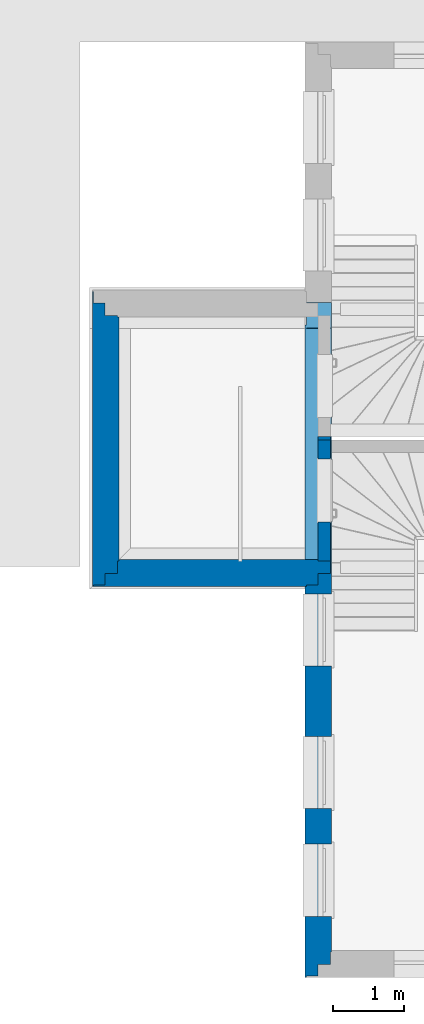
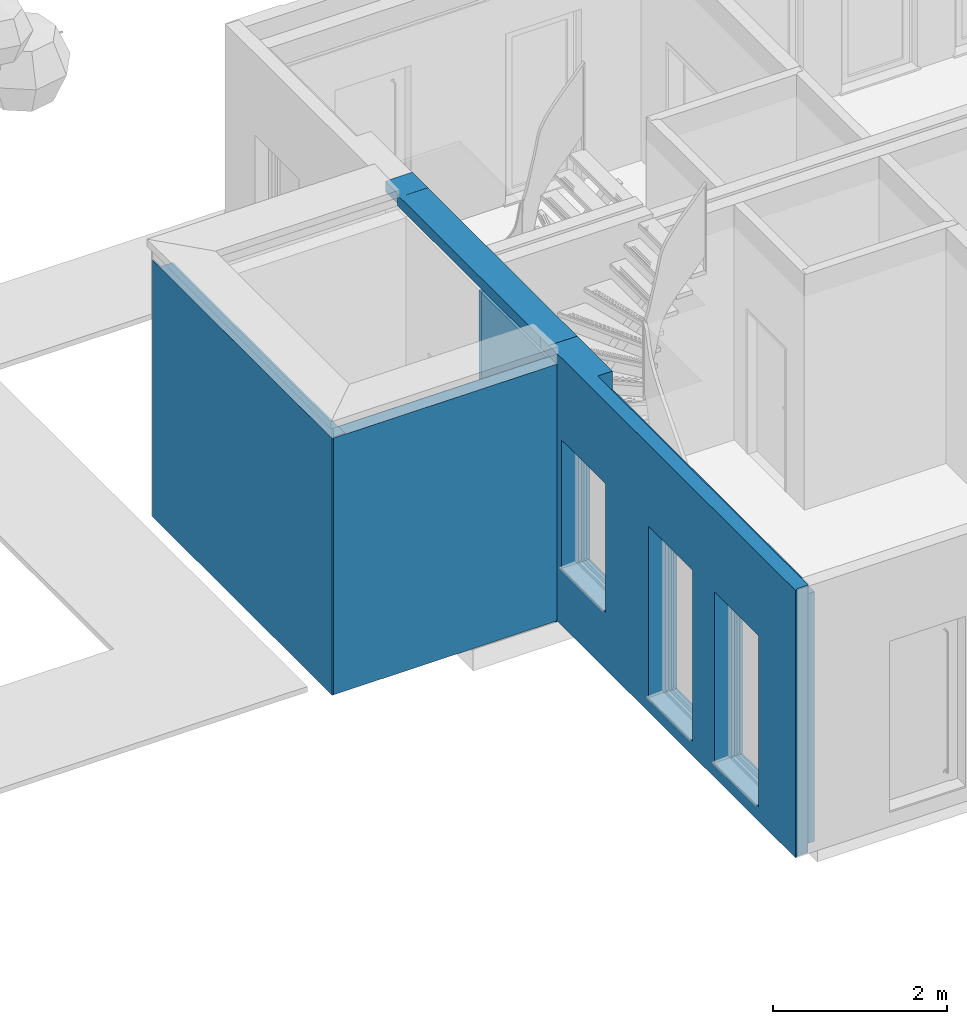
# One storey, part 6 of 28: 6 walls.
"""IFC4 building model written with IfcOpenShell, lengths in metres."""

from ifc_helpers import new_model, entity, si_unit, converted_unit, derived_unit, direction, frame, origin_with_axes, place, context, subcontext, project, spatial, triangles, material, constituent, constituent_set, type_object, element, save


model = new_model("IFC4")

# Units and contexts
model_context = context("Model", 3, precision=1e-05, world=origin_with_axes(), true_north=direction((-0.526213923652, 0.850352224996)))
body_context = subcontext(model_context, "Body", "Model", "MODEL_VIEW")
ifc_project = project(units=[si_unit("LENGTHUNIT", "METRE"), si_unit("AREAUNIT", "SQUARE_METRE"), si_unit("VOLUMEUNIT", "CUBIC_METRE"), converted_unit("PLANEANGLEUNIT", "DEGREE", entity("IfcPlaneAngleMeasure", 0.0174532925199), si_unit("PLANEANGLEUNIT", "RADIAN"), dimensions=[0, 0, 0, 0, 0, 0, 0]), si_unit("SOLIDANGLEUNIT", "STERADIAN"), converted_unit("TIMEUNIT", "Year", entity("IfcTimeMeasure", 31556926.0), si_unit("TIMEUNIT", "SECOND"), dimensions=[0, 0, 1, 0, 0, 0, 0]), si_unit("MASSUNIT", "GRAM", prefix="KILO"), si_unit("THERMODYNAMICTEMPERATUREUNIT", "DEGREE_CELSIUS"), si_unit("LUMINOUSINTENSITYUNIT", "LUMEN"), si_unit("ENERGYUNIT", "JOULE", prefix="MEGA"), derived_unit("THERMALCONDUCTANCEUNIT", [(si_unit("POWERUNIT", "WATT"), 1), (si_unit("LENGTHUNIT", "METRE"), -1), (si_unit("THERMODYNAMICTEMPERATUREUNIT", "KELVIN"), -1)]), derived_unit("SPECIFICHEATCAPACITYUNIT", [(si_unit("ENERGYUNIT", "JOULE"), 1), (si_unit("MASSUNIT", "GRAM", prefix="KILO"), -1), (si_unit("THERMODYNAMICTEMPERATUREUNIT", "KELVIN"), -1)]), derived_unit("MASSDENSITYUNIT", [(si_unit("MASSUNIT", "GRAM", prefix="KILO"), 1), (si_unit("VOLUMEUNIT", "CUBIC_METRE"), -1)])], contexts=[model_context])

# Site, building, storey, space
site_placement = place(None, origin_with_axes())
site = spatial("IfcSite", under=ifc_project, at=site_placement, Name="Gelände", CompositionType="ELEMENT")
building_placement = place(site_placement, origin_with_axes())
building = spatial("IfcBuilding", under=site, at=building_placement, Name="Haus vom Nikolaus", CompositionType="ELEMENT")
storey_placement = place(building_placement, origin_with_axes())
storey = spatial("IfcBuildingStorey", under=building, at=storey_placement, Name="EG", CompositionType="ELEMENT", Elevation=0.0)
space_placement = place(storey_placement, frame((-3.09538684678, 5.36483190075, 0.0), z_axis=(0.0, 0.0, 1.0), x_axis=(1.0, 0.0, 0.0)))
space = spatial("IfcSpace", under=storey, at=space_placement, Name="EG", CompositionType="ELEMENT")

# Walls
ifc_material_1 = material(Name="Verputz, Zement")
ifc_constituent_1 = constituent(ifc_material_1, Name="Component 1")
ifc_material_2 = material(Name="MW Kalksandstein")
ifc_constituent_2 = constituent(ifc_material_2, Name="Component 2")
ifc_material_3 = material(Name="Dämmung, weich Mineralwolle 2")
ifc_constituent_3 = constituent(ifc_material_3, Name="Component 3")
ifc_constituent_4 = constituent(ifc_material_1, Name="Component 4")
ifc_constituent_set_1 = constituent_set(constituents=[ifc_constituent_1, ifc_constituent_2, ifc_constituent_3, ifc_constituent_4], Name="WA | 2 Schichtig KS")
wall_type_1 = type_object("IfcWallType", Name="WA | 2 Schichtig KS 375", PredefinedType="NOTDEFINED")
wall_1_placement = place(space_placement, frame((0.375, 0.375000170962, 0.0), z_axis=(0.0, 0.0, 1.0), x_axis=(1.0, 0.0, 0.0)))
element("IfcWall", 1, at=wall_1_placement, inside=space, type_object=wall_type_1, material=ifc_constituent_set_1, Name="Wand-001", context=body_context, shape_type="Tessellation", body=[
    triangles([(2.78510521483, 0.0, 0.0), (0.0, 0.0, 3.3), (2.78510521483, 0.0, 3.3), (0.0, 0.0, 0.0), (2.78510188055, -0.02, 3.3), (0.0, -0.02, 3.3), (2.78510188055, -0.02, 0.0), (0.0, -0.02, 0.0)], [[1, 2, 3], [1, 4, 2], [2, 5, 3], [2, 6, 5], [7, 3, 5], [7, 1, 3], [7, 4, 1], [7, 8, 4], [4, 6, 2], [4, 8, 6], [8, 5, 6], [8, 7, 5]], closed=True),
    triangles([(2.96038446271, 0.0, 3.6), (2.98010084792, 0.0, 3.6), (2.96038446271, 0.0, 3.3), (2.96010521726, 0.0, 0.0), (2.98010084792, 0.0, 0.0), (2.96010521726, 0.0, 3.3), (2.96038446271, -0.02, 3.3), (2.96010188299, -0.02, 3.3), (2.96038446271, -0.02, 3.6), (2.98010188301, -0.02, 3.6), (2.98010188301, -0.02, 0.0), (2.96010188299, -0.02, 0.0)], [[1, 2, 3], [4, 3, 5], [5, 3, 2], [3, 4, 6], [7, 6, 8], [6, 7, 3], [3, 9, 1], [3, 7, 9], [2, 9, 10], [9, 2, 1], [5, 10, 11], [5, 2, 10], [4, 11, 12], [4, 5, 11], [4, 8, 6], [4, 12, 8], [9, 7, 10], [11, 7, 12], [12, 7, 8], [10, 7, 11]], closed=True),
    triangles([(2.96010186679, -0.0200971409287, 0.0), (2.78510186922, -0.0200679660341, 3.3), (2.96010186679, -0.0200971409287, 3.3), (2.78510186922, -0.0200679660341, 0.0), (-0.02, -0.195, 3.3), (-0.02, -0.02, 3.3), (2.96011094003, -0.195, 3.3), (2.78510188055, -0.02, 3.3), (2.96011094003, -0.195, 0.0), (-0.02, -0.02, 0.0), (2.78510188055, -0.02, 0.0), (-0.02, -0.195, 0.0)], [[1, 2, 3], [1, 4, 2], [5, 2, 6], [2, 7, 3], [6, 2, 8], [2, 5, 7], [9, 3, 7], [9, 1, 3], [4, 10, 11], [4, 1, 9], [10, 4, 12], [12, 4, 9], [4, 8, 2], [4, 11, 8], [11, 6, 8], [11, 10, 6], [10, 5, 6], [10, 12, 5], [12, 7, 5], [12, 9, 7]], closed=True),
    triangles([(2.78511093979, -0.195, 0.0), (-0.195, -0.355, 0.0), (-0.195, -0.195, 0.0), (2.78511922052, -0.355, 0.0), (2.78511922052, -0.355, 3.6), (-0.195, -0.355, 3.6), (-0.195, -0.195, 3.6), (2.78511093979, -0.195, 3.6)], [[1, 2, 3], [2, 1, 4], [2, 5, 6], [2, 4, 5], [6, 3, 2], [6, 7, 3], [7, 1, 3], [7, 8, 1], [5, 1, 8], [5, 4, 1], [6, 8, 7], [6, 5, 8]], closed=True),
    triangles([(2.6251192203, -0.355, 0.0), (-0.355, -0.375, 0.0), (-0.355, -0.355, 0.0), (2.62512025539, -0.375, 0.0), (2.62512025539, -0.375, 3.6), (-0.355, -0.375, 3.6), (-0.355, -0.355, 3.6), (2.6251192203, -0.355, 3.6)], [[1, 2, 3], [2, 1, 4], [2, 5, 6], [2, 4, 5], [6, 3, 2], [6, 7, 3], [7, 1, 3], [7, 8, 1], [5, 1, 8], [5, 4, 1], [6, 8, 7], [6, 5, 8]], closed=True),
])
ifc_constituent_5 = constituent(ifc_material_1, Name="Component 1")
ifc_constituent_6 = constituent(ifc_material_3, Name="Component 2")
ifc_constituent_7 = constituent(ifc_material_2, Name="Component 3")
ifc_constituent_8 = constituent(ifc_material_1, Name="Component 4")
ifc_constituent_set_2 = constituent_set(constituents=[ifc_constituent_5, ifc_constituent_6, ifc_constituent_7, ifc_constituent_8], Name="WA | 2 Schichtig KS")
wall_2_placement = place(space_placement, frame((0.375, 0.375000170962, 0.0), z_axis=(0.0, 0.0, 1.0), x_axis=(0.0, 1.0, 0.0)))
element("IfcWall", 2, at=wall_2_placement, inside=space, type_object=wall_type_1, material=ifc_constituent_set_2, Name="Wand-002", context=body_context, shape_type="Tessellation", body=[
    triangles([(-0.375, 0.355, 3.6), (3.755, 0.375, 3.6), (-0.375, 0.375, 3.6), (3.755, 0.355, 3.6), (3.755, 0.375, 0.0), (-0.375, 0.375, 0.0), (-0.375, 0.355, 0.0), (3.755, 0.355, 0.0)], [[1, 2, 3], [1, 4, 2], [3, 5, 6], [3, 2, 5], [6, 1, 3], [6, 7, 1], [7, 4, 1], [7, 8, 4], [5, 4, 8], [5, 2, 4], [6, 8, 7], [6, 5, 8]], closed=True),
    triangles([(-0.355, 0.195, 3.6), (3.595, 0.355, 3.6), (-0.355, 0.355, 3.6), (3.595, 0.195, 3.6), (3.595, 0.355, 0.0), (-0.355, 0.355, 0.0), (-0.355, 0.195, 0.0), (3.595, 0.195, 0.0)], [[1, 2, 3], [1, 4, 2], [3, 5, 6], [3, 2, 5], [6, 1, 3], [6, 7, 1], [7, 4, 1], [7, 8, 4], [5, 4, 8], [5, 2, 4], [6, 8, 7], [6, 5, 8]], closed=True),
    triangles([(3.42, 0.02, 0.0), (3.42, 0.195, 3.3), (3.42, 0.02, 3.3), (3.42, 0.195, 0.0), (-0.195, 0.02, 3.3), (-0.195, 0.195, 3.3), (-0.195, 0.02, 0.0), (-0.195, 0.195, 0.0)], [[1, 2, 3], [1, 4, 2], [2, 5, 3], [2, 6, 5], [7, 3, 5], [7, 1, 3], [8, 1, 7], [1, 8, 4], [4, 6, 2], [4, 8, 6], [8, 5, 6], [8, 7, 5]], closed=True),
    triangles([(3.4, 0.0, 0.0), (3.4, 0.02, 3.3), (3.4, 0.0, 3.3), (3.4, 0.02, 0.0), (-0.02, 0.0, 3.3), (-0.02, 0.02, 3.3), (-0.02, 0.0, 0.0), (-0.02, 0.02, 0.0)], [[1, 2, 3], [1, 4, 2], [2, 5, 3], [2, 6, 5], [7, 3, 5], [7, 1, 3], [8, 1, 7], [1, 8, 4], [4, 6, 2], [4, 8, 6], [8, 5, 6], [8, 7, 5]], closed=True),
])
ifc_constituent_9 = constituent(ifc_material_1, Name="Component 1")
ifc_constituent_10 = constituent(ifc_material_2, Name="Component 2")
ifc_constituent_11 = constituent(ifc_material_3, Name="Component 3")
ifc_constituent_12 = constituent(ifc_material_1, Name="Component 4")
ifc_constituent_set_3 = constituent_set(constituents=[ifc_constituent_9, ifc_constituent_10, ifc_constituent_11, ifc_constituent_12], Name="WA | 2 Schichtig KS")
wall_3_placement = place(space_placement, frame((3.35510084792, 0.375000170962, 0.0), z_axis=(0.0, 0.0, 1.0), x_axis=(5.17545230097e-05, -0.999999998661, 0.0)))
element("IfcWall", 3, at=wall_3_placement, inside=space, type_object=wall_type_1, material=ifc_constituent_set_3, Name="Wand-004", context=body_context, shape_type="Tessellation", body=[
    triangles([(0.0199989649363, -0.02, 0.0), (5.49999892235, -0.02, 0.0), (3.4899999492, -0.02, 0.2), (0.0, -0.02, 3.74992860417), (0.194998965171, -0.02, 3.6), (0.999998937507, -0.02, 3.74992860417), (3.4899999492, -0.02, 2.6), (0.999998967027, -0.02, 3.15), (2.4799999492, -0.02, 2.6), (1.4899999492, -0.02, 2.6), (5.49999892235, -0.02, 3.5), (5.49887787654, -0.02, 3.2), (-1.03509046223e-06, -0.02, 3.6), (0.194998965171, -0.02, 3.3), (0.999998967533, -0.02, 3.5), (0.4799999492, -0.02, 2.6), (0.0199989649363, -0.02, 3.3), (0.4799999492, -0.02, 0.8), (1.4899999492, -0.02, 0.8), (3.9899999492, -0.02, 2.6), (4.9999999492, -0.02, 2.6), (0.999998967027, -0.02, 3.2), (5.49887787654, -0.02, 3.15), (3.9899999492, -0.02, 0.2), (2.4799999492, -0.02, 0.2), (4.9999999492, -0.02, 0.2), (0.0200000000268, 0.0, 0.0), (5.49999995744, 0.0, 0.0), (5.49999995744, 0.0, 3.5), (1.00000000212, 0.0, 3.5), (0.999999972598, 0.0, 3.74992860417), (0.0, 0.0, 3.74992860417), (0.0, 0.0, 3.6), (0.0199989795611, -0.0197174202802, 3.6), (0.0200000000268, 0.0, 3.6), (0.194998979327, -0.0197264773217, 3.6), (0.194998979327, -0.0197264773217, 3.3), (0.0199989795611, -0.0197174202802, 3.3), (1.00000000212, 0.0, 3.15), (5.49887891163, 0.0, 3.15), (1.00000000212, 0.0, 3.2), (5.49887891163, 0.0, 3.2), (1.4899999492, 0.0, 2.6), (1.4899999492, 0.0, 0.8), (0.4799999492, 0.0, 0.8), (0.4799999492, 0.0, 2.6), (3.4899999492, 0.0, 2.6), (2.4799999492, 0.0, 2.6), (3.4899999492, 0.0, 0.2), (2.4799999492, 0.0, 0.2), (3.9899999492, 0.0, 0.2), (3.9899999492, 0.0, 2.6), (4.9999999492, 0.0, 2.6), (4.9999999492, 0.0, 0.2)], [[1, 2, 3], [4, 5, 6], [7, 8, 9], [9, 8, 10], [2, 11, 12], [5, 4, 13], [14, 15, 5], [6, 5, 15], [16, 17, 18], [18, 1, 19], [20, 8, 7], [21, 8, 20], [22, 15, 14], [8, 22, 14], [2, 12, 23], [22, 11, 15], [16, 8, 14], [23, 8, 21], [17, 16, 14], [20, 3, 24], [1, 18, 17], [8, 16, 10], [9, 10, 19], [25, 9, 19], [3, 20, 7], [1, 3, 25], [1, 25, 19], [24, 3, 2], [26, 2, 21], [22, 12, 11], [23, 21, 2], [2, 26, 24], [2, 27, 28], [27, 2, 1], [11, 28, 29], [11, 2, 28], [30, 11, 29], [11, 30, 15], [31, 15, 30], [31, 6, 15], [32, 6, 31], [6, 32, 4], [4, 33, 13], [4, 32, 33], [5, 13, 34], [34, 33, 35], [5, 34, 36], [33, 34, 13], [5, 37, 14], [5, 36, 37], [14, 38, 17], [38, 14, 37], [38, 1, 17], [38, 34, 35], [1, 38, 27], [27, 38, 35], [39, 23, 40], [39, 8, 23], [41, 8, 39], [41, 22, 8], [12, 41, 42], [41, 12, 22], [40, 12, 42], [40, 23, 12], [43, 19, 10], [43, 44, 19], [44, 18, 19], [44, 45, 18], [45, 16, 18], [45, 46, 16], [43, 16, 46], [16, 43, 10], [9, 47, 7], [9, 48, 47], [7, 49, 3], [7, 47, 49], [3, 50, 25], [3, 49, 50], [25, 48, 9], [25, 50, 48], [20, 51, 52], [20, 24, 51], [21, 52, 53], [21, 20, 52], [26, 53, 54], [26, 21, 53], [26, 51, 24], [51, 26, 54], [33, 32, 35], [41, 35, 30], [35, 31, 30], [28, 27, 50], [29, 28, 40], [41, 46, 35], [46, 41, 39], [31, 35, 32], [43, 46, 39], [42, 41, 30], [42, 30, 29], [29, 40, 42], [39, 40, 53], [46, 45, 27], [27, 35, 46], [44, 27, 45], [28, 49, 51], [48, 50, 44], [48, 44, 43], [54, 28, 51], [39, 48, 43], [39, 47, 48], [28, 50, 49], [44, 50, 27], [52, 49, 47], [28, 53, 40], [39, 52, 47], [53, 28, 54], [39, 53, 52], [49, 52, 51], [38, 36, 34], [38, 37, 36]], closed=True),
    triangles([(1.4899999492, -0.195, 0.8), (0.4799999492, -0.195, 0.8), (0.194989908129, -0.195, 0.0), (0.194989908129, -0.195, 3.6), (2.4799999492, -0.195, 2.6), (1.4899999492, -0.195, 2.6), (5.67498986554, -0.195, 3.74992860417), (0.0, -0.195, 3.74992860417), (0.4799999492, -0.195, 2.6), (5.67498986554, -0.195, 0.0), (3.4899999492, -0.195, 0.2), (0.0, -0.195, 3.6), (3.9899999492, -0.195, 0.2), (3.4899999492, -0.195, 2.6), (2.4799999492, -0.195, 0.2), (3.9899999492, -0.195, 2.6), (4.9999999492, -0.195, 0.2), (4.9999999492, -0.195, 2.6), (-1.03509045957e-06, -0.0199999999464, 3.6), (0.194998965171, -0.02, 3.6), (0.194998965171, -0.02, 0.0), (5.67499892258, -0.02, 0.0), (5.67498987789, -0.194625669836, 3.5), (5.67499891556, -0.0199999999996, 3.5), (5.67498987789, -0.194625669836, 3.74992860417), (0.99998994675, -0.194383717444, 3.74992860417), (0.0, -0.02, 3.74992860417), (0.999998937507, -0.02, 3.74992860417), (1.4899999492, -0.02, 2.6), (1.4899999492, -0.02, 0.8), (0.4799999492, -0.02, 0.8), (0.4799999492, -0.02, 2.6), (3.4899999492, -0.02, 2.6), (2.4799999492, -0.02, 2.6), (3.4899999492, -0.02, 0.2), (2.4799999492, -0.02, 0.2), (3.9899999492, -0.0199999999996, 0.2), (3.9899999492, -0.0199999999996, 2.6), (4.9999999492, -0.0199999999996, 2.6), (4.9999999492, -0.0199999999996, 0.2), (0.999998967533, -0.02, 3.5), (0.99998994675, -0.194383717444, 3.5)], [[1, 2, 3], [4, 3, 2], [5, 4, 6], [7, 8, 4], [4, 2, 9], [3, 10, 11], [4, 8, 12], [4, 5, 7], [13, 14, 11], [4, 9, 6], [1, 5, 6], [14, 7, 5], [15, 5, 1], [13, 16, 14], [3, 11, 15], [3, 15, 1], [13, 11, 10], [17, 10, 18], [18, 7, 16], [14, 16, 7], [7, 18, 10], [10, 17, 13], [4, 19, 20], [19, 4, 12], [20, 3, 4], [20, 21, 3], [10, 21, 22], [21, 10, 3], [7, 10, 23], [23, 22, 24], [7, 23, 25], [22, 23, 10], [8, 7, 26], [26, 7, 25], [27, 26, 28], [26, 27, 8], [27, 12, 8], [12, 27, 19], [29, 1, 6], [29, 30, 1], [31, 1, 30], [1, 31, 2], [31, 9, 2], [31, 32, 9], [32, 6, 9], [32, 29, 6], [5, 33, 14], [5, 34, 33], [14, 35, 11], [14, 33, 35], [35, 15, 11], [15, 35, 36], [15, 34, 5], [15, 36, 34], [16, 37, 38], [16, 13, 37], [16, 39, 18], [39, 16, 38], [17, 39, 40], [17, 18, 39], [13, 40, 37], [13, 17, 40], [20, 19, 27], [32, 41, 29], [20, 28, 41], [41, 24, 33], [22, 21, 36], [41, 32, 20], [28, 20, 27], [30, 21, 31], [21, 32, 31], [21, 20, 32], [34, 36, 30], [22, 35, 37], [34, 30, 29], [39, 22, 40], [41, 34, 29], [41, 33, 34], [22, 36, 35], [30, 36, 21], [38, 35, 33], [40, 22, 37], [38, 33, 24], [22, 39, 24], [38, 24, 39], [35, 38, 37], [41, 23, 24], [23, 41, 42], [25, 42, 26], [25, 23, 42], [28, 42, 41], [28, 26, 42]], closed=True),
    triangles([(0.0, -0.355, 3.6), (0.35498162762, -0.355, 3.6), (0.0, -0.355, 3.74992860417), (0.35498162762, -0.355, 0.0), (5.83498158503, -0.355, 0.0), (3.9899999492, -0.355, 0.2), (2.4799999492, -0.355, 2.6), (1.4899999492, -0.355, 2.6), (5.83498158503, -0.355, 3.74992860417), (1.4899999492, -0.355, 0.8), (0.4799999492, -0.355, 0.8), (3.4899999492, -0.355, 2.6), (3.9899999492, -0.355, 2.6), (3.4899999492, -0.355, 0.2), (0.4799999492, -0.355, 2.6), (2.4799999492, -0.355, 0.2), (4.9999999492, -0.355, 0.2), (4.9999999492, -0.355, 2.6), (0.354989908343, -0.195, 3.6), (0.354989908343, -0.195, 0.0), (5.83498986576, -0.195, 0.0), (5.83498986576, -0.195, 3.74992860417), (0.0, -0.195, 3.74992860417), (0.0, -0.195, 3.6), (1.4899999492, -0.195, 2.6), (1.4899999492, -0.195, 0.8), (0.4799999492, -0.195, 0.8), (0.4799999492, -0.195, 2.6), (3.4899999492, -0.195, 2.6), (2.4799999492, -0.195, 2.6), (3.4899999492, -0.195, 0.2), (2.4799999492, -0.195, 0.2), (3.9899999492, -0.195, 0.2), (3.9899999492, -0.195, 2.6), (4.9999999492, -0.195, 2.6), (4.9999999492, -0.195, 0.2)], [[1, 2, 3], [4, 5, 6], [7, 2, 8], [9, 3, 2], [10, 11, 4], [2, 4, 11], [12, 2, 7], [13, 14, 6], [2, 11, 15], [2, 15, 8], [10, 7, 8], [2, 12, 9], [16, 7, 10], [14, 13, 12], [4, 14, 16], [4, 16, 10], [4, 6, 14], [17, 5, 18], [18, 9, 13], [12, 13, 9], [9, 18, 5], [5, 17, 6], [4, 19, 20], [19, 4, 2], [5, 20, 21], [5, 4, 20], [9, 21, 22], [9, 5, 21], [23, 9, 22], [9, 23, 3], [24, 3, 23], [3, 24, 1], [2, 24, 19], [2, 1, 24], [25, 10, 8], [25, 26, 10], [27, 10, 26], [10, 27, 11], [27, 15, 11], [27, 28, 15], [28, 8, 15], [28, 25, 8], [7, 29, 12], [7, 30, 29], [12, 31, 14], [12, 29, 31], [31, 16, 14], [16, 31, 32], [16, 30, 7], [16, 32, 30], [13, 33, 34], [13, 6, 33], [18, 34, 35], [18, 13, 34], [17, 35, 36], [17, 18, 35], [17, 33, 6], [33, 17, 36], [28, 19, 25], [23, 22, 19], [23, 19, 24], [21, 20, 32], [29, 19, 22], [26, 20, 27], [20, 28, 27], [20, 19, 28], [30, 32, 26], [21, 31, 33], [30, 26, 25], [35, 21, 36], [30, 25, 19], [29, 30, 19], [21, 32, 31], [26, 32, 20], [33, 31, 29], [36, 21, 33], [34, 29, 22], [21, 35, 22], [34, 22, 35], [29, 34, 33]], closed=True),
    triangles([(1.4899999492, -0.375, 0.8), (0.4799999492, -0.375, 0.8), (0.374980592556, -0.375, 0.0), (0.374980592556, -0.375, 3.6), (0.0, -0.375, 3.74992860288), (0.0, -0.375, 3.6), (5.85498054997, -0.375, 0.0), (3.9899999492, -0.375, 0.2), (5.85498054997, -0.375, 3.74992860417), (2.4799999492, -0.375, 2.6), (1.4899999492, -0.375, 2.6), (3.4899999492, -0.375, 2.6), (3.4899999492, -0.375, 0.2), (0.4799999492, -0.375, 2.6), (2.4799999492, -0.375, 0.2), (3.9899999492, -0.375, 2.6), (4.9999999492, -0.375, 2.6), (4.9999999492, -0.375, 0.2), (0.0, -0.355, 3.74992860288), (5.85498158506, -0.355, 3.74992860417), (0.0, -0.355, 3.6), (0.374981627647, -0.355, 3.6), (0.374981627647, -0.355, 0.0), (5.85498158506, -0.355, 0.0), (1.4899999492, -0.355, 2.6), (1.4899999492, -0.355, 0.8), (0.4799999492, -0.355, 0.8), (0.4799999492, -0.355, 2.6), (3.4899999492, -0.355, 2.6), (2.4799999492, -0.355, 2.6), (3.4899999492, -0.355, 0.2), (2.4799999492, -0.355, 0.2), (3.9899999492, -0.355, 0.2), (3.9899999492, -0.355, 2.6), (4.9999999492, -0.355, 2.6), (4.9999999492, -0.355, 0.2)], [[1, 2, 3], [4, 5, 6], [3, 7, 8], [5, 4, 9], [10, 4, 11], [12, 4, 10], [8, 12, 13], [4, 2, 14], [4, 3, 2], [4, 14, 11], [1, 10, 11], [4, 12, 9], [15, 10, 1], [8, 16, 12], [3, 13, 15], [3, 15, 1], [3, 8, 13], [12, 16, 9], [17, 7, 9], [16, 17, 9], [18, 8, 7], [17, 18, 7], [9, 19, 5], [19, 9, 20], [6, 19, 21], [6, 5, 19], [4, 21, 22], [4, 6, 21], [3, 22, 23], [3, 4, 22], [7, 23, 24], [7, 3, 23], [9, 24, 20], [9, 7, 24], [25, 1, 11], [25, 26, 1], [26, 2, 1], [26, 27, 2], [27, 14, 2], [27, 28, 14], [28, 11, 14], [28, 25, 11], [10, 29, 12], [10, 30, 29], [12, 31, 13], [12, 29, 31], [31, 15, 13], [15, 31, 32], [15, 30, 10], [15, 32, 30], [16, 33, 34], [16, 8, 33], [16, 35, 17], [35, 16, 34], [18, 35, 36], [18, 17, 35], [8, 36, 33], [8, 18, 36], [19, 20, 22], [28, 22, 25], [24, 23, 32], [23, 28, 27], [19, 22, 21], [33, 24, 31], [29, 22, 20], [26, 23, 27], [23, 22, 28], [30, 32, 26], [30, 26, 25], [35, 24, 36], [30, 25, 22], [29, 30, 22], [24, 32, 31], [26, 32, 23], [33, 31, 29], [36, 24, 33], [34, 29, 20], [24, 35, 20], [34, 20, 35], [29, 34, 33]], closed=True),
])
ifc_constituent_13 = constituent(ifc_material_1, Name="Component 1")
ifc_constituent_14 = constituent(ifc_material_2, Name="Component 2")
ifc_constituent_15 = constituent(ifc_material_3, Name="Component 3")
ifc_constituent_16 = constituent(ifc_material_1, Name="Component 4")
ifc_constituent_set_4 = constituent_set(constituents=[ifc_constituent_13, ifc_constituent_14, ifc_constituent_15, ifc_constituent_16], Name="WA | 2 Schichtig KS")
wall_4_placement = place(space_placement, frame((2.98038443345, 3.97398874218, 3.6), z_axis=(0.0, 0.0, 1.0), x_axis=(0.0, -1.0, 0.0)))
element("IfcWall", 4, at=wall_4_placement, inside=space, type_object=wall_type_1, material=ifc_constituent_set_4, Name="Wand-008", context=body_context, shape_type="Tessellation", body=[
    triangles([(0.0, 0.355, 0.15), (0.357320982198, 0.375, 0.15), (0.0, 0.375, 0.15), (0.357320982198, 0.355, 0.15), (0.358723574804, 0.355, 0.148597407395), (0.358723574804, 0.375, 0.148597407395), (0.0, 0.375, 0.0), (3.7899999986, 0.375, 0.0), (0.359680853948, 0.375, 0.149554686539), (3.7899999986, 0.375, 0.15), (0.359680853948, 0.375, 0.15), (0.0, 0.355, 0.0), (0.359680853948, 0.355, 0.149554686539), (3.7899999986, 0.355, 0.15), (0.359680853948, 0.355, 0.15), (3.7899999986, 0.355, 0.0)], [[1, 2, 3], [2, 1, 4], [5, 2, 4], [2, 5, 6], [2, 7, 3], [8, 9, 10], [10, 9, 11], [2, 6, 7], [6, 9, 8], [7, 6, 8], [12, 3, 7], [12, 1, 3], [13, 14, 15], [12, 4, 1], [4, 12, 5], [12, 16, 5], [13, 5, 16], [14, 13, 16], [5, 9, 6], [5, 13, 9], [9, 15, 11], [9, 13, 15], [14, 11, 15], [14, 10, 11], [10, 16, 8], [10, 14, 16], [16, 7, 8], [16, 12, 7]], closed=True),
    triangles([(0.0, 0.355, 0.15), (0.357320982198, 0.18, 0.15), (0.357320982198, 0.355, 0.15), (0.0, 0.18, 0.15), (0.358723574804, 0.355, 0.148597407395), (0.358723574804, 0.18, 0.148597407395), (0.0, 0.355, 0.0), (3.7899999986, 0.355, 0.0), (0.359680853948, 0.355, 0.149554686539), (3.7899999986, 0.355, 0.15), (0.359680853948, 0.355, 0.15), (0.0, 0.18, 0.0), (0.359680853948, 0.18, 0.149554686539), (3.7899999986, 0.18, 0.15), (0.359680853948, 0.18, 0.15), (3.7899999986, 0.18, 0.0)], [[1, 2, 3], [1, 4, 2], [2, 5, 3], [2, 6, 5], [3, 7, 1], [8, 9, 10], [10, 9, 11], [3, 5, 7], [5, 9, 8], [7, 5, 8], [12, 1, 7], [12, 4, 1], [13, 14, 15], [12, 2, 4], [2, 12, 6], [12, 16, 6], [13, 6, 16], [14, 13, 16], [6, 9, 5], [6, 13, 9], [9, 15, 11], [9, 13, 15], [14, 11, 15], [14, 10, 11], [10, 16, 8], [10, 14, 16], [16, 7, 8], [16, 12, 7]], closed=True),
    triangles([(0.0, 0.18, 0.15), (0.357320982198, 0.02, 0.15), (0.357320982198, 0.18, 0.15), (0.0, 0.02, 0.15), (0.358723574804, 0.18, 0.148597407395), (0.358723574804, 0.02, 0.148597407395), (0.0, 0.18, 0.0), (3.7899999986, 0.18, 0.0), (0.359680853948, 0.18, 0.149554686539), (3.7899999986, 0.18, 0.15), (0.359680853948, 0.18, 0.15), (0.0, 0.02, 0.0), (0.359680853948, 0.02, 0.149554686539), (3.7899999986, 0.02, 0.15), (0.359680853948, 0.02, 0.15), (3.7899999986, 0.02, 0.0)], [[1, 2, 3], [1, 4, 2], [2, 5, 3], [2, 6, 5], [3, 7, 1], [8, 9, 10], [10, 9, 11], [3, 5, 7], [5, 9, 8], [7, 5, 8], [12, 1, 7], [12, 4, 1], [13, 14, 15], [12, 2, 4], [2, 12, 6], [12, 16, 6], [13, 6, 16], [14, 13, 16], [6, 9, 5], [6, 13, 9], [9, 15, 11], [9, 13, 15], [14, 11, 15], [14, 10, 11], [10, 16, 8], [10, 14, 16], [16, 7, 8], [16, 12, 7]], closed=True),
    triangles([(0.359680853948, 0.0, 0.149554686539), (0.35872357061, 0.0, 0.148597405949), (0.314271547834, 0.0, 0.0), (0.31427154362, 0.0, 0.148597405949), (3.7899999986, 0.0, 0.15), (0.359680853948, 0.0, 0.15), (3.7899999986, 0.0, 0.0), (0.31427154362, 0.02, 0.148597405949), (0.35872357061, 0.02, 0.148597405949), (0.314271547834, 0.02, 0.0), (3.7899999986, 0.02, 0.0), (3.7899999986, 0.02, 0.15), (0.359680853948, 0.02, 0.15), (0.359680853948, 0.02, 0.149554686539)], [[1, 2, 3], [3, 2, 4], [1, 5, 6], [1, 3, 7], [5, 1, 7], [2, 8, 4], [8, 2, 9], [3, 8, 10], [3, 4, 8], [11, 3, 10], [11, 7, 3], [12, 7, 11], [12, 5, 7], [5, 13, 6], [5, 12, 13], [14, 6, 13], [14, 1, 6], [1, 9, 2], [1, 14, 9], [11, 14, 12], [10, 8, 9], [13, 12, 14], [10, 14, 11], [14, 10, 9]], closed=True),
])
ifc_constituent_17 = constituent(ifc_material_2, Name="Component 1")
ifc_constituent_set_5 = constituent_set(constituents=[ifc_constituent_17], Name="WI | MW_tr")
wall_type_2 = type_object("IfcWallType", Name="WI | MW_tr 175", PredefinedType="NOTDEFINED")
wall_5_placement = place(space_placement, frame((3.33538446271, 2.05000030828, -0.5), z_axis=(0.0, 0.0, 1.0), x_axis=(-0.000166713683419, -0.999999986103, 0.0)))
element("IfcWall", 5, at=wall_5_placement, inside=space, type_object=wall_type_2, material=ifc_constituent_set_5, Name="Wand-003", context=body_context, shape_type="Tessellation", body=[
    triangles([(0.265000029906, 0.0, 2.2098), (0.265000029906, 0.0, 0.2), (0.175000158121, 0.0, 0.25), (0.0, 0.0, 3.8), (1.6950973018, 0.0, 3.8), (1.15000002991, 0.0, 2.2098), (1.6950973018, 0.0, 0.5), (0.0, 0.0, 0.25), (0.175000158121, 0.0, 0.2), (1.69500017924, 0.0, 0.5), (1.69500017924, 0.0, 0.2), (1.15000002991, 0.0, 0.2), (1.15000002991, -0.175, 0.2), (1.15000002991, -0.175, 2.2098), (0.265000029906, -0.175, 2.2098), (0.265000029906, -0.175, 0.2), (0.175029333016, -0.175, 0.2), (0.175029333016, -0.175, 0.25), (0.0, -0.175, 0.25), (0.0, -0.175, 3.8), (1.6950973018, -0.175, 3.8), (1.6950973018, -0.175, 0.5), (1.69502930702, -0.174717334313, 0.5), (1.69502935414, -0.175, 0.5), (1.69502930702, -0.174717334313, 0.2), (1.69502935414, -0.175, 0.2)], [[1, 2, 3], [4, 5, 6], [5, 7, 6], [8, 4, 1], [4, 6, 1], [3, 2, 9], [8, 1, 3], [10, 11, 12], [10, 6, 7], [6, 10, 12], [13, 6, 12], [13, 14, 6], [14, 1, 6], [14, 15, 1], [15, 2, 1], [15, 16, 2], [17, 2, 16], [17, 9, 2], [9, 18, 3], [18, 9, 17], [3, 19, 8], [19, 3, 18], [4, 19, 20], [4, 8, 19], [4, 21, 5], [21, 4, 20], [7, 21, 22], [7, 5, 21], [7, 23, 10], [22, 24, 23], [7, 22, 23], [10, 25, 11], [10, 23, 25], [26, 13, 25], [25, 12, 11], [12, 25, 13], [21, 20, 14], [22, 21, 14], [24, 13, 26], [22, 14, 24], [13, 24, 14], [18, 15, 19], [16, 15, 18], [16, 18, 17], [15, 14, 20], [19, 15, 20], [25, 24, 26], [25, 23, 24]], closed=True),
])
ifc_material_4 = material(Name="Verputz, Kalkzement")
ifc_constituent_18 = constituent(ifc_material_4, Name="Component 1")
ifc_constituent_19 = constituent(ifc_material_3, Name="Component 2")
ifc_constituent_set_6 = constituent_set(constituents=[ifc_constituent_18, ifc_constituent_19], Name="WA\xa0| Wärmedämmung+Putz")
wall_type_3 = type_object("IfcWallType", Name="WA\xa0| Wärmedämmung+Putz 180", PredefinedType="NOTDEFINED")
wall_6_placement = place(space_placement, frame((3.16038445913, 2.05000017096, -0.3), z_axis=(0.0, 0.0, 1.0), x_axis=(0.0, 1.0, 0.0)))
element("IfcWall", 6, at=wall_6_placement, inside=space, type_object=wall_type_3, material=ifc_constituent_set_6, Name="Wand-010", context=body_context, shape_type="Tessellation", body=[
    triangles([(0.0, 0.0, 3.6), (0.05, -0.02, 3.6), (0.05, 0.0, 3.6), (0.0, -0.02, 3.6), (0.05, 0.0, 0.0), (0.05, -0.02, 0.0), (0.0, 0.0, 0.0), (0.0, -0.02, 0.0)], [[1, 2, 3], [1, 4, 2], [5, 2, 6], [5, 3, 2], [7, 3, 5], [7, 1, 3], [7, 4, 1], [7, 8, 4], [4, 6, 2], [4, 8, 6], [8, 5, 6], [8, 7, 5]], closed=True),
    triangles([(0.0, -0.02, 3.6), (0.05, -0.18, 3.6), (0.05, -0.02, 3.6), (0.0, -0.18, 3.6), (0.05, -0.02, 0.0), (0.05, -0.18, 0.0), (0.0, -0.02, 0.0), (0.0, -0.18, 0.0)], [[1, 2, 3], [1, 4, 2], [5, 2, 6], [5, 3, 2], [7, 3, 5], [7, 1, 3], [7, 4, 1], [7, 8, 4], [4, 6, 2], [4, 8, 6], [8, 5, 6], [8, 7, 5]], closed=True),
])

save(model, "model.ifc")
